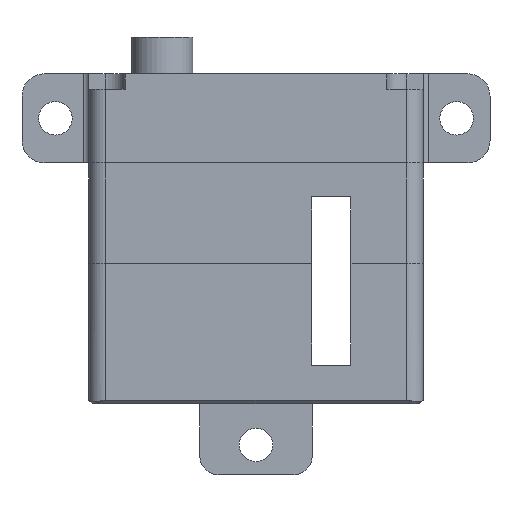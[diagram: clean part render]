
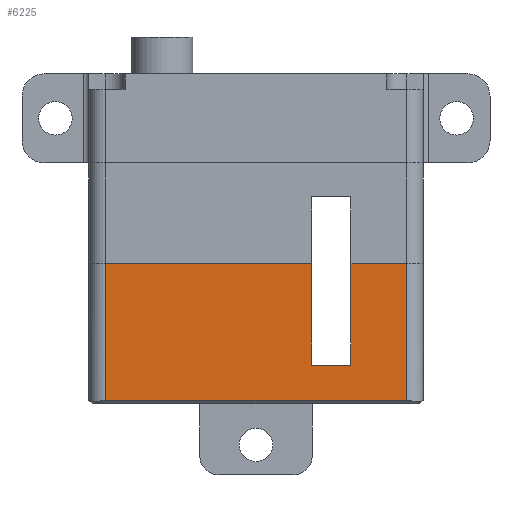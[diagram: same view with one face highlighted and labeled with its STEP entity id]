
A CAD part, front view. The second image highlights one B-rep face of the part: STEP entity #6225.
In plain terms, the highlighted planar face has unit normal (0, -1, 0).
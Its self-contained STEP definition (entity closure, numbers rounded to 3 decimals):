
#13 = DIRECTION ( 'NONE',  ( 0., 0., 1. ) ) ;
#141 = LINE ( 'NONE', #1000, #6032 ) ;
#175 = CARTESIAN_POINT ( 'NONE',  ( 15., -5., -9. ) ) ;
#299 = EDGE_CURVE ( 'NONE', #9208, #8869, #7072, .T. ) ;
#481 = DIRECTION ( 'NONE',  ( 0., -1., 0. ) ) ;
#609 = CARTESIAN_POINT ( 'NONE',  ( 13.5, -5., -21.3 ) ) ;
#739 = ORIENTED_EDGE ( 'NONE', *, *, #8002, .T. ) ;
#1000 = CARTESIAN_POINT ( 'NONE',  ( 15., -5., -21.3 ) ) ;
#1004 = CARTESIAN_POINT ( 'NONE',  ( 15., -5., -18.15 ) ) ;
#1133 = VECTOR ( 'NONE', #4852, 1000. ) ;
#1226 = CARTESIAN_POINT ( 'NONE',  ( 13.5, -5., -9. ) ) ;
#1428 = EDGE_CURVE ( 'NONE', #7291, #6818, #1694, .T. ) ;
#1466 = VERTEX_POINT ( 'NONE', #3214 ) ;
#1520 = LINE ( 'NONE', #1004, #2726 ) ;
#1604 = ORIENTED_EDGE ( 'NONE', *, *, #1919, .T. ) ;
#1610 = VECTOR ( 'NONE', #6384, 1000. ) ;
#1694 = LINE ( 'NONE', #8161, #7161 ) ;
#1919 = EDGE_CURVE ( 'NONE', #6818, #2800, #141, .T. ) ;
#2460 = VECTOR ( 'NONE', #13, 1000. ) ;
#2535 = CARTESIAN_POINT ( 'NONE',  ( -13.5, -5., -9. ) ) ;
#2576 = ORIENTED_EDGE ( 'NONE', *, *, #5838, .T. ) ;
#2709 = ORIENTED_EDGE ( 'NONE', *, *, #1428, .T. ) ;
#2726 = VECTOR ( 'NONE', #8761, 1000. ) ;
#2775 = EDGE_CURVE ( 'NONE', #1466, #9208, #8336, .T. ) ;
#2800 = VERTEX_POINT ( 'NONE', #609 ) ;
#2871 = DIRECTION ( 'NONE',  ( -1., 0., 0. ) ) ;
#2992 = VERTEX_POINT ( 'NONE', #4625 ) ;
#3143 = DIRECTION ( 'NONE',  ( 1., 0., 0. ) ) ;
#3159 = EDGE_CURVE ( 'NONE', #2800, #1466, #6467, .T. ) ;
#3214 = CARTESIAN_POINT ( 'NONE',  ( 13.5, -5., -9. ) ) ;
#3304 = LINE ( 'NONE', #175, #6657 ) ;
#3323 = DIRECTION ( 'NONE',  ( 0., 0., -1. ) ) ;
#3790 = CARTESIAN_POINT ( 'NONE',  ( 8.525, -5., -9. ) ) ;
#4144 = CARTESIAN_POINT ( 'NONE',  ( 8.525, -5., -18.15 ) ) ;
#4215 = CARTESIAN_POINT ( 'NONE',  ( 8.525, -5., -9. ) ) ;
#4217 = AXIS2_PLACEMENT_3D ( 'NONE', #6770, #481, #3323 ) ;
#4297 = ORIENTED_EDGE ( 'NONE', *, *, #2775, .T. ) ;
#4327 = VECTOR ( 'NONE', #6904, 1000. ) ;
#4394 = FACE_OUTER_BOUND ( 'NONE', #6737, .T. ) ;
#4403 = ORIENTED_EDGE ( 'NONE', *, *, #4698, .T. ) ;
#4528 = CARTESIAN_POINT ( 'NONE',  ( -13.5, -5., -21.3 ) ) ;
#4625 = CARTESIAN_POINT ( 'NONE',  ( 5.025, -5., -9. ) ) ;
#4698 = EDGE_CURVE ( 'NONE', #2992, #7291, #3304, .T. ) ;
#4852 = DIRECTION ( 'NONE',  ( -1., 0., 0. ) ) ;
#4907 = CARTESIAN_POINT ( 'NONE',  ( 15., -5., -9. ) ) ;
#5583 = CARTESIAN_POINT ( 'NONE',  ( 5.025, -5., -18.15 ) ) ;
#5698 = LINE ( 'NONE', #8432, #2460 ) ;
#5838 = EDGE_CURVE ( 'NONE', #8869, #6969, #1520, .T. ) ;
#6032 = VECTOR ( 'NONE', #3143, 1000. ) ;
#6225 = ADVANCED_FACE ( 'NONE', ( #4394 ), #7464, .T. ) ;
#6384 = DIRECTION ( 'NONE',  ( 0., 0., -1. ) ) ;
#6402 = ORIENTED_EDGE ( 'NONE', *, *, #3159, .T. ) ;
#6467 = LINE ( 'NONE', #1226, #4327 ) ;
#6657 = VECTOR ( 'NONE', #2871, 1000. ) ;
#6737 = EDGE_LOOP ( 'NONE', ( #8915, #2576, #739, #4403, #2709, #1604, #6402, #4297 ) ) ;
#6770 = CARTESIAN_POINT ( 'NONE',  ( 15., -5., -9. ) ) ;
#6818 = VERTEX_POINT ( 'NONE', #4528 ) ;
#6904 = DIRECTION ( 'NONE',  ( 0., 0., 1. ) ) ;
#6969 = VERTEX_POINT ( 'NONE', #5583 ) ;
#7072 = LINE ( 'NONE', #4215, #1610 ) ;
#7161 = VECTOR ( 'NONE', #8820, 1000. ) ;
#7291 = VERTEX_POINT ( 'NONE', #2535 ) ;
#7464 = PLANE ( 'NONE',  #4217 ) ;
#8002 = EDGE_CURVE ( 'NONE', #6969, #2992, #5698, .T. ) ;
#8161 = CARTESIAN_POINT ( 'NONE',  ( -13.5, -5., -9. ) ) ;
#8336 = LINE ( 'NONE', #4907, #1133 ) ;
#8432 = CARTESIAN_POINT ( 'NONE',  ( 5.025, -5., -9. ) ) ;
#8761 = DIRECTION ( 'NONE',  ( -1., 0., 0. ) ) ;
#8820 = DIRECTION ( 'NONE',  ( 0., 0., -1. ) ) ;
#8869 = VERTEX_POINT ( 'NONE', #4144 ) ;
#8915 = ORIENTED_EDGE ( 'NONE', *, *, #299, .T. ) ;
#9208 = VERTEX_POINT ( 'NONE', #3790 ) ;
